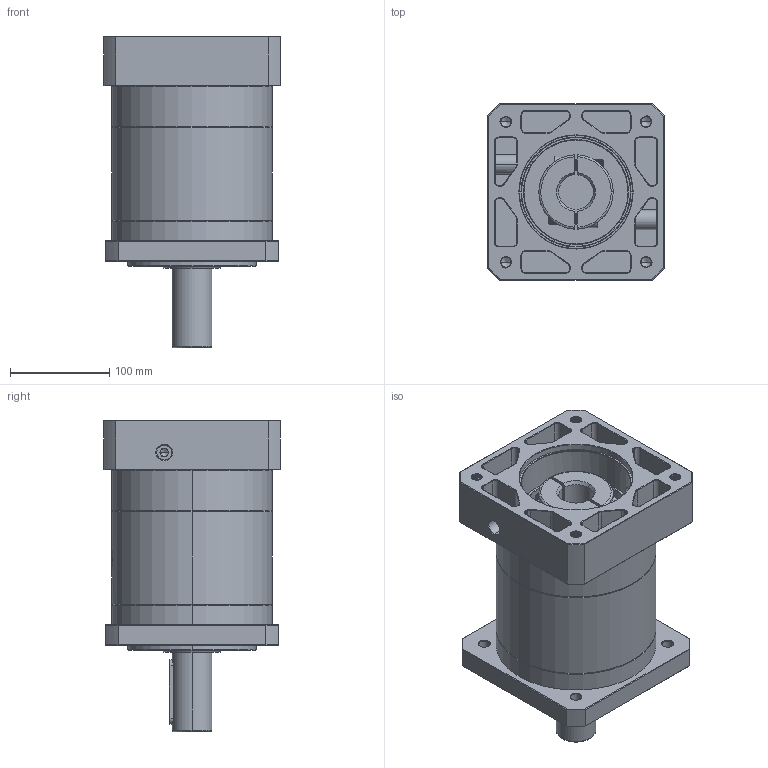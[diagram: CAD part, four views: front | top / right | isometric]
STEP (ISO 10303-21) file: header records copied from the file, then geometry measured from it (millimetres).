
FILE_DESCRIPTION (( 'STEP AP214' ), '1' );
FILE_NAME ('ZF160A-D40-L2-P2-35-114.3-200-M12.step', '2023-09-03T06:59:10', ( '' ), ( '' ), 'SwSTEP 2.0', 'SolidWorks 2016', '' );
FILE_SCHEMA (( 'AUTOMOTIVE_DESIGN' ));
Length unit declared in the file: millimetre
Products named in the file (1): ZF160A-D40-L2-P2-35-114.3-200-M12
Bounding box: 178 x 178 x 314.2 mm (x, y, z)
Volume: 4872074.7 mm3; surface area: 395531 mm2
Topology: 6 solids, 6 shells, 2359 faces, 6324 edges, 4078 vertices
Faces by surface type: plane 1107, cylinder 454, bspline 411, cone 365, torus 22
Entity records: 132476 total; most frequent: CARTESIAN_POINT 52564, ORIENTED_EDGE 12588, DIRECTION 9487, EDGE_CURVE 6294, VERTEX_POINT 4078, VECTOR 3337, LINE 3337, AXIS2_PLACEMENT_3D 3075
